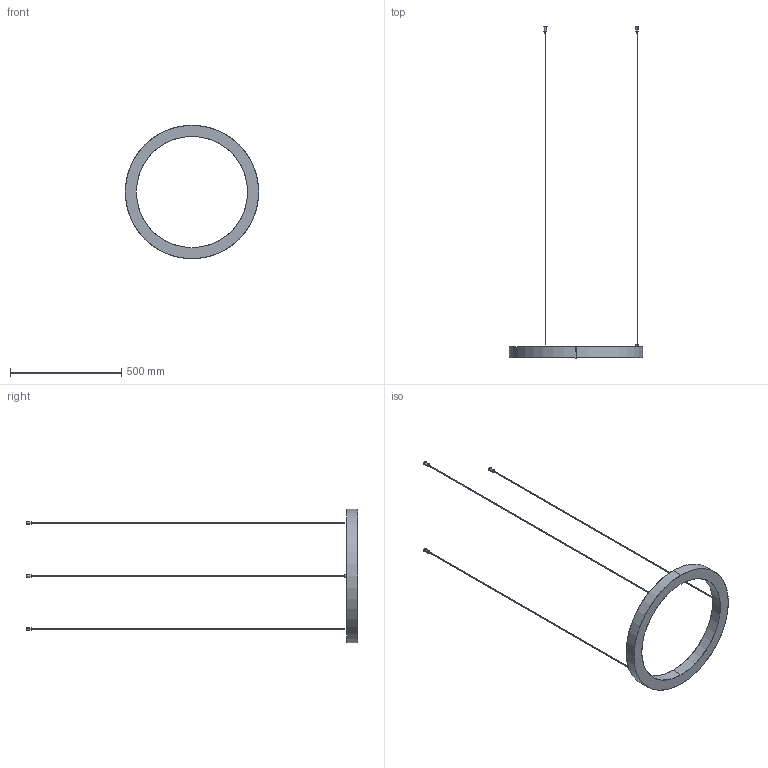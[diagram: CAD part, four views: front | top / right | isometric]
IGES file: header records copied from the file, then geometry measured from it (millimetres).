
Start section: SolidWorks IGES file using analytic representation for surfaces
Global section: file name: F:\燠隴矨\3D\2024-8堎\Ring LED Pendant Light-D60CM.IGS; native system: SolidWorks 2022; preprocessor: SolidWorks 2022; author: MyPC; date: 240813.091204; units: millimetre
Bounding box: 600 x 1492.5 x 600 mm (x, y, z)
Surface area: 390165.2 mm2 (no closed solid volume)
Topology: 0 solids, 0 shells, 64 faces, 1256 edges, 1256 vertices
Faces by surface type: revolution 42, bspline 22
